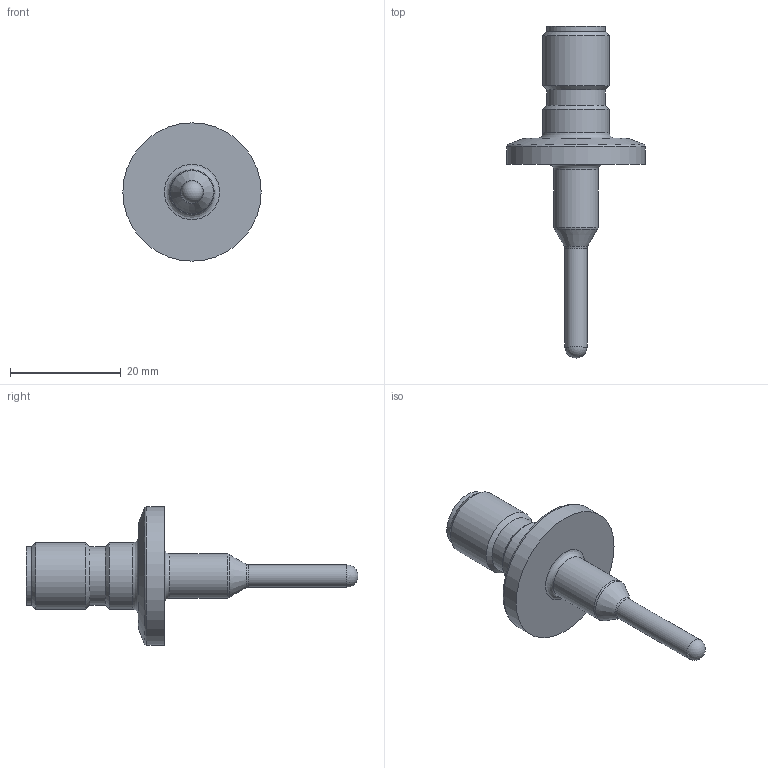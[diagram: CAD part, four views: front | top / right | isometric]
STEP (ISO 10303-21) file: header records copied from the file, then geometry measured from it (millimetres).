
FILE_DESCRIPTION((''),'2;1');
FILE_NAME('C:\TurckZip\TP-104A-TRI3_4-H1-35mm.stp','2007-03-15T14:25:09',('IKOROL'),(''),'Autodesk Inventor 11','Autodesk Inventor 11','');
FILE_SCHEMA(('AUTOMOTIVE_DESIGN { 1 0 10303 214 1 1 1 1 }'));
Length unit declared in the file: millimetre
Products named in the file (1): Part10
Bounding box: 25 x 59.99 x 25 mm (x, y, z)
Volume: 4961.5 mm3; surface area: 3036.6 mm2
Topology: 1 solids, 2 shells, 44 faces, 88 edges, 54 vertices
Faces by surface type: cylinder 15, plane 14, cone 9, bspline 3, torus 2, sphere 1
Full cylindrical faces by diameter (mm): 1 x4, 4 x1, 8 x1, 8.3 x1, 9.9 x1, 10.5 x3, 12 x2, 25 x1
Entity records: 1085 total; most frequent: CARTESIAN_POINT 277, DIRECTION 180, ORIENTED_EDGE 104, AXIS2_PLACEMENT_3D 86, EDGE_LOOP 82, EDGE_CURVE 52, VERTEX_POINT 48, CIRCLE 44
